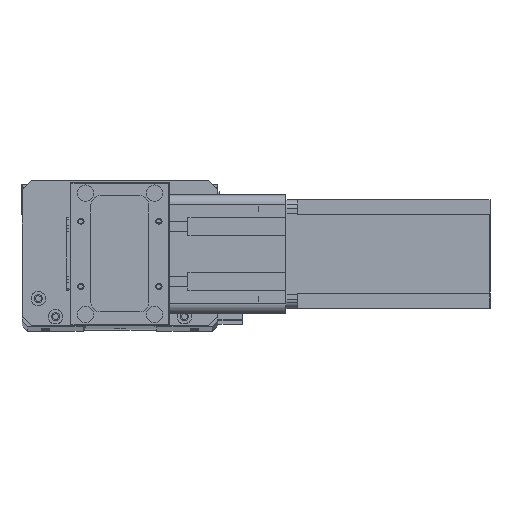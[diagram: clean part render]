
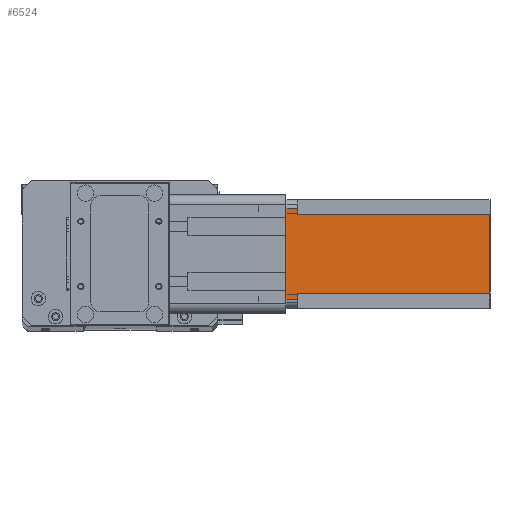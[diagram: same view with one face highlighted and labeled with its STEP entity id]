
A CAD part, top view. The second image highlights one B-rep face of the part: STEP entity #6524.
In plain terms, the highlighted planar face has unit normal (0, 0, 1) as drawn and (0, 1, 0) by its records, which use the part's own axes.
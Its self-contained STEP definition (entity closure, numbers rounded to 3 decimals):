
#436 = ORIENTED_EDGE ( 'NONE', *, *, #15427, .T. ) ;
#1624 = CARTESIAN_POINT ( 'NONE',  ( 0., 60., -112.5 ) ) ;
#1932 = ORIENTED_EDGE ( 'NONE', *, *, #21886, .T. ) ;
#2613 = DIRECTION ( 'NONE',  ( 0., 0., 1. ) ) ;
#3282 = CARTESIAN_POINT ( 'NONE',  ( 52., 60., -112.5 ) ) ;
#3576 = CARTESIAN_POINT ( 'NONE',  ( 8., 60., -112.5 ) ) ;
#3697 = VECTOR ( 'NONE', #27095, 1000. ) ;
#4198 = DIRECTION ( 'NONE',  ( 0., 0., 1. ) ) ;
#4533 = ORIENTED_EDGE ( 'NONE', *, *, #9590, .F. ) ;
#4890 = VERTEX_POINT ( 'NONE', #15121 ) ;
#5217 = VECTOR ( 'NONE', #13298, 1000. ) ;
#5393 = ORIENTED_EDGE ( 'NONE', *, *, #16924, .F. ) ;
#6288 = PLANE ( 'NONE',  #8559 ) ;
#6524 = ADVANCED_FACE ( 'NONE', ( #22913 ), #6288, .T. ) ;
#6948 = CARTESIAN_POINT ( 'NONE',  ( 5., 60., -112.5 ) ) ;
#8541 = ORIENTED_EDGE ( 'NONE', *, *, #17355, .F. ) ;
#8559 = AXIS2_PLACEMENT_3D ( 'NONE', #10641, #17185, #4198 ) ;
#9590 = EDGE_CURVE ( 'NONE', #20366, #4890, #21634, .T. ) ;
#9620 = ORIENTED_EDGE ( 'NONE', *, *, #14635, .T. ) ;
#10212 = DIRECTION ( 'NONE',  ( -1., 0., 0. ) ) ;
#10380 = LINE ( 'NONE', #1624, #15462 ) ;
#10641 = CARTESIAN_POINT ( 'NONE',  ( 0., 60., -112.5 ) ) ;
#10960 = LINE ( 'NONE', #21955, #5217 ) ;
#11191 = CARTESIAN_POINT ( 'NONE',  ( 55., 60., -6.5 ) ) ;
#11855 = VECTOR ( 'NONE', #21140, 1000. ) ;
#13200 = LINE ( 'NONE', #18925, #11855 ) ;
#13298 = DIRECTION ( 'NONE',  ( -1., 0., 0. ) ) ;
#13416 = DIRECTION ( 'NONE',  ( 0., 0., 1. ) ) ;
#14064 = DIRECTION ( 'NONE',  ( -1., 0., 0. ) ) ;
#14087 = CARTESIAN_POINT ( 'NONE',  ( 55., 60., -112.5 ) ) ;
#14635 = EDGE_CURVE ( 'NONE', #25572, #17099, #26498, .T. ) ;
#14959 = EDGE_CURVE ( 'NONE', #4890, #22320, #13200, .T. ) ;
#15121 = CARTESIAN_POINT ( 'NONE',  ( 52., 60., -6.5 ) ) ;
#15297 = EDGE_CURVE ( 'NONE', #22875, #22320, #21022, .T. ) ;
#15427 = EDGE_CURVE ( 'NONE', #20366, #20474, #10380, .T. ) ;
#15462 = VECTOR ( 'NONE', #10212, 1000. ) ;
#16574 = EDGE_LOOP ( 'NONE', ( #8541, #27097, #27417, #4533, #436, #5393, #1932, #9620 ) ) ;
#16924 = EDGE_CURVE ( 'NONE', #25141, #20474, #22542, .T. ) ;
#17099 = VERTEX_POINT ( 'NONE', #25295 ) ;
#17185 = DIRECTION ( 'NONE',  ( 0., 1., 0. ) ) ;
#17355 = EDGE_CURVE ( 'NONE', #22875, #17099, #10960, .T. ) ;
#18828 = CARTESIAN_POINT ( 'NONE',  ( 5., 60., -6.5 ) ) ;
#18925 = CARTESIAN_POINT ( 'NONE',  ( 52., 60., -6.5 ) ) ;
#19599 = CARTESIAN_POINT ( 'NONE',  ( 8., 60., -6.5 ) ) ;
#19913 = VECTOR ( 'NONE', #14064, 1000. ) ;
#20366 = VERTEX_POINT ( 'NONE', #3282 ) ;
#20474 = VERTEX_POINT ( 'NONE', #3576 ) ;
#20737 = VECTOR ( 'NONE', #13416, 1000. ) ;
#21022 = LINE ( 'NONE', #14087, #3697 ) ;
#21140 = DIRECTION ( 'NONE',  ( 1., 0., 0. ) ) ;
#21540 = CARTESIAN_POINT ( 'NONE',  ( 55., 60., 0. ) ) ;
#21634 = LINE ( 'NONE', #22207, #28058 ) ;
#21886 = EDGE_CURVE ( 'NONE', #25141, #25572, #25693, .T. ) ;
#21955 = CARTESIAN_POINT ( 'NONE',  ( 0., 60., 0. ) ) ;
#22207 = CARTESIAN_POINT ( 'NONE',  ( 52., 60., -112.5 ) ) ;
#22320 = VERTEX_POINT ( 'NONE', #11191 ) ;
#22542 = LINE ( 'NONE', #24721, #27626 ) ;
#22875 = VERTEX_POINT ( 'NONE', #21540 ) ;
#22913 = FACE_OUTER_BOUND ( 'NONE', #16574, .T. ) ;
#24721 = CARTESIAN_POINT ( 'NONE',  ( 8., 60., -112.5 ) ) ;
#25141 = VERTEX_POINT ( 'NONE', #19599 ) ;
#25295 = CARTESIAN_POINT ( 'NONE',  ( 5., 60., 0. ) ) ;
#25572 = VERTEX_POINT ( 'NONE', #18828 ) ;
#25693 = LINE ( 'NONE', #27072, #19913 ) ;
#26498 = LINE ( 'NONE', #6948, #20737 ) ;
#26928 = DIRECTION ( 'NONE',  ( 0., 0., -1. ) ) ;
#27072 = CARTESIAN_POINT ( 'NONE',  ( 8., 60., -6.5 ) ) ;
#27095 = DIRECTION ( 'NONE',  ( 0., 0., -1. ) ) ;
#27097 = ORIENTED_EDGE ( 'NONE', *, *, #15297, .T. ) ;
#27417 = ORIENTED_EDGE ( 'NONE', *, *, #14959, .F. ) ;
#27626 = VECTOR ( 'NONE', #26928, 1000. ) ;
#28058 = VECTOR ( 'NONE', #2613, 1000. ) ;
